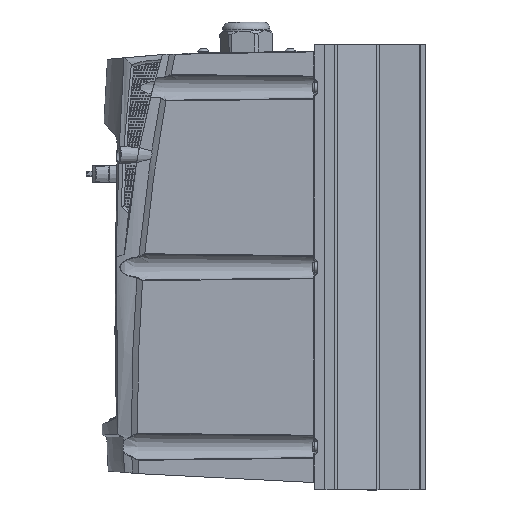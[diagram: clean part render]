
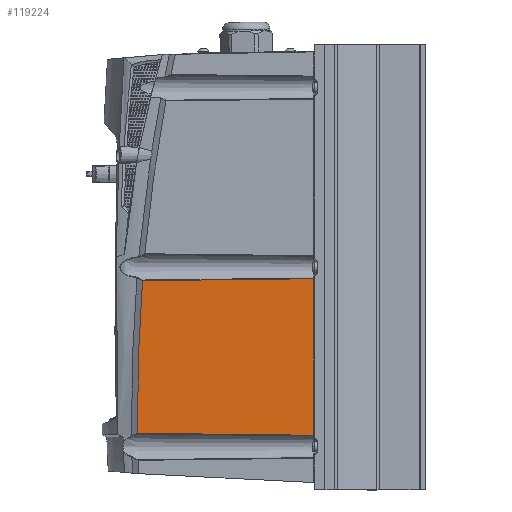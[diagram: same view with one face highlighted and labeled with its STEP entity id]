
A CAD part, left-side view. The second image highlights one B-rep face of the part: STEP entity #119224.
In plain terms, the highlighted planar face has unit normal (-1, 0.018, 0).
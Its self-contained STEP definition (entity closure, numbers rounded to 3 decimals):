
#1835 = CARTESIAN_POINT ( 'NONE',  ( -95.153, 5.491, 0.087 ) ) ;
#6223 = B_SPLINE_CURVE_WITH_KNOTS ( 'NONE', 3,
 ( #124884, #106143, #28762, #164763 ),
 .UNSPECIFIED., .F., .F.,
 ( 4, 4 ),
 ( 0., 1. ),
 .UNSPECIFIED. ) ;
#7839 = ORIENTED_EDGE ( 'NONE', *, *, #26427, .F. ) ;
#18107 = CARTESIAN_POINT ( 'NONE',  ( -93.016, 127.94, -115.493 ) ) ;
#20292 = ORIENTED_EDGE ( 'NONE', *, *, #211134, .F. ) ;
#26427 = EDGE_CURVE ( 'NONE', #100122, #119861, #158688, .T. ) ;
#27232 = VERTEX_POINT ( 'NONE', #137886 ) ;
#28762 = CARTESIAN_POINT ( 'NONE',  ( -94.498, 43.054, -116.432 ) ) ;
#31454 = DIRECTION ( 'NONE',  ( -0.017, -1., 0. ) ) ;
#33207 = CARTESIAN_POINT ( 'NONE',  ( -95.153, 5.491, -7.931 ) ) ;
#34448 = CARTESIAN_POINT ( 'NONE',  ( -93.009, 128.365, -80.051 ) ) ;
#38371 = B_SPLINE_CURVE_WITH_KNOTS ( 'NONE', 3,
 ( #97921, #215213, #18107, #115836 ),
 .UNSPECIFIED., .F., .F.,
 ( 4, 4 ),
 ( 0., 1. ),
 .UNSPECIFIED. ) ;
#44588 = VERTEX_POINT ( 'NONE', #146851 ) ;
#47001 = CARTESIAN_POINT ( 'NONE',  ( -93.076, 124.492, -9.304 ) ) ;
#52649 = PLANE ( 'NONE',  #225679 ) ;
#54776 = CARTESIAN_POINT ( 'NONE',  ( -93.029, 127.213, -44.617 ) ) ;
#66356 = CARTESIAN_POINT ( 'NONE',  ( -93.076, 124.492, -9.304 ) ) ;
#67435 = CARTESIAN_POINT ( 'NONE',  ( -93.076, 124.491, -9.297 ) ) ;
#69937 = CARTESIAN_POINT ( 'NONE',  ( -93.076, 124.49, -9.29 ) ) ;
#87926 = EDGE_CURVE ( 'NONE', #44588, #238740, #6223, .T. ) ;
#88622 = CARTESIAN_POINT ( 'NONE',  ( -93.076, 124.49, -9.284 ) ) ;
#89762 = EDGE_LOOP ( 'NONE', ( #7839, #175860, #179158, #124648, #98317, #20292 ) ) ;
#96473 = EDGE_CURVE ( 'NONE', #152013, #27232, #118715, .T. ) ;
#97921 = CARTESIAN_POINT ( 'NONE',  ( -93.016, 127.942, -115.467 ) ) ;
#98317 = ORIENTED_EDGE ( 'NONE', *, *, #96473, .T. ) ;
#100122 = VERTEX_POINT ( 'NONE', #132247 ) ;
#106143 = CARTESIAN_POINT ( 'NONE',  ( -93.785, 83.87, -115.969 ) ) ;
#111989 = FACE_OUTER_BOUND ( 'NONE', #89762, .T. ) ;
#115836 = CARTESIAN_POINT ( 'NONE',  ( -93.016, 127.939, -115.506 ) ) ;
#118715 = B_SPLINE_CURVE_WITH_KNOTS ( 'NONE', 3,
 ( #193285, #135515, #251044, #233213 ),
 .UNSPECIFIED., .F., .F.,
 ( 4, 4 ),
 ( 0., 1. ),
 .UNSPECIFIED. ) ;
#119224 = ADVANCED_FACE ( 'NONE', ( #111989 ), #52649, .T. ) ;
#119861 = VERTEX_POINT ( 'NONE', #66356 ) ;
#124648 = ORIENTED_EDGE ( 'NONE', *, *, #226787, .T. ) ;
#124884 = CARTESIAN_POINT ( 'NONE',  ( -93.016, 127.939, -115.506 ) ) ;
#132247 = CARTESIAN_POINT ( 'NONE',  ( -93.016, 127.942, -115.467 ) ) ;
#135515 = CARTESIAN_POINT ( 'NONE',  ( -94.515, 42.072, -8.382 ) ) ;
#137886 = CARTESIAN_POINT ( 'NONE',  ( -93.076, 124.49, -9.284 ) ) ;
#141710 = B_SPLINE_CURVE_WITH_KNOTS ( 'NONE', 3,
 ( #47001, #67435, #69937, #88622 ),
 .UNSPECIFIED., .F., .F.,
 ( 4, 4 ),
 ( 0., 1. ),
 .UNSPECIFIED. ) ;
#146851 = CARTESIAN_POINT ( 'NONE',  ( -93.016, 127.939, -115.506 ) ) ;
#147873 = DIRECTION ( 'NONE',  ( -1., 0.017, 0. ) ) ;
#149544 = CARTESIAN_POINT ( 'NONE',  ( -95.251, -0.087, -154.913 ) ) ;
#152013 = VERTEX_POINT ( 'NONE', #33207 ) ;
#158688 = B_SPLINE_CURVE_WITH_KNOTS ( 'NONE', 3,
 ( #171290, #34448, #54776, #212060 ),
 .UNSPECIFIED., .F., .F.,
 ( 4, 4 ),
 ( 0., 1. ),
 .UNSPECIFIED. ) ;
#164763 = CARTESIAN_POINT ( 'NONE',  ( -95.153, 5.491, -116.895 ) ) ;
#171290 = CARTESIAN_POINT ( 'NONE',  ( -93.016, 127.942, -115.467 ) ) ;
#175860 = ORIENTED_EDGE ( 'NONE', *, *, #220338, .T. ) ;
#178545 = DIRECTION ( 'NONE',  ( 0., 0., 1. ) ) ;
#179158 = ORIENTED_EDGE ( 'NONE', *, *, #87926, .T. ) ;
#179400 = LINE ( 'NONE', #1835, #252317 ) ;
#193285 = CARTESIAN_POINT ( 'NONE',  ( -95.153, 5.491, -7.931 ) ) ;
#206561 = CARTESIAN_POINT ( 'NONE',  ( -95.153, 5.491, -116.895 ) ) ;
#211134 = EDGE_CURVE ( 'NONE', #119861, #27232, #141710, .T. ) ;
#212060 = CARTESIAN_POINT ( 'NONE',  ( -93.076, 124.492, -9.304 ) ) ;
#215213 = CARTESIAN_POINT ( 'NONE',  ( -93.016, 127.941, -115.48 ) ) ;
#220338 = EDGE_CURVE ( 'NONE', #100122, #44588, #38371, .T. ) ;
#225679 = AXIS2_PLACEMENT_3D ( 'NONE', #149544, #147873, #31454 ) ;
#226787 = EDGE_CURVE ( 'NONE', #238740, #152013, #179400, .T. ) ;
#233213 = CARTESIAN_POINT ( 'NONE',  ( -93.076, 124.49, -9.284 ) ) ;
#238740 = VERTEX_POINT ( 'NONE', #206561 ) ;
#251044 = CARTESIAN_POINT ( 'NONE',  ( -93.822, 81.738, -8.833 ) ) ;
#252317 = VECTOR ( 'NONE', #178545, 1000. ) ;
